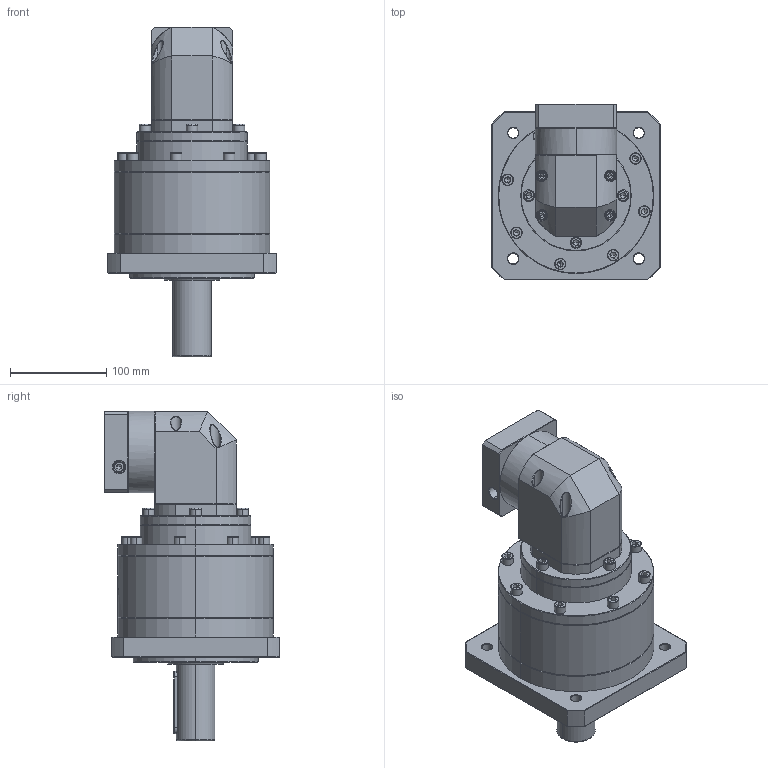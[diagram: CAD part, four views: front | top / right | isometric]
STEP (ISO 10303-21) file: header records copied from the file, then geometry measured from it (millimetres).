
FILE_DESCRIPTION (( 'STEP AP214' ), '1' );
FILE_NAME ('ZFR160A-D40-L3-P2-16-80-100-M6.step', '2023-09-03T10:05:06', ( '' ), ( '' ), 'SwSTEP 2.0', 'SolidWorks 2016', '' );
FILE_SCHEMA (( 'AUTOMOTIVE_DESIGN' ));
Length unit declared in the file: millimetre
Products named in the file (1): ZFR160A-D40-L3-P2-16-80-100-M6
Bounding box: 175 x 182.6 x 343.2 mm (x, y, z)
Volume: 3983570.7 mm3; surface area: 271022.2 mm2
Topology: 6 solids, 6 shells, 2605 faces, 6780 edges, 4305 vertices
Faces by surface type: plane 1238, cylinder 520, bspline 421, cone 366, torus 60
Entity records: 138869 total; most frequent: CARTESIAN_POINT 51804, ORIENTED_EDGE 13420, DIRECTION 10391, EDGE_CURVE 6710, VERTEX_POINT 4305, LINE 3615, VECTOR 3615, AXIS2_PLACEMENT_3D 3388
